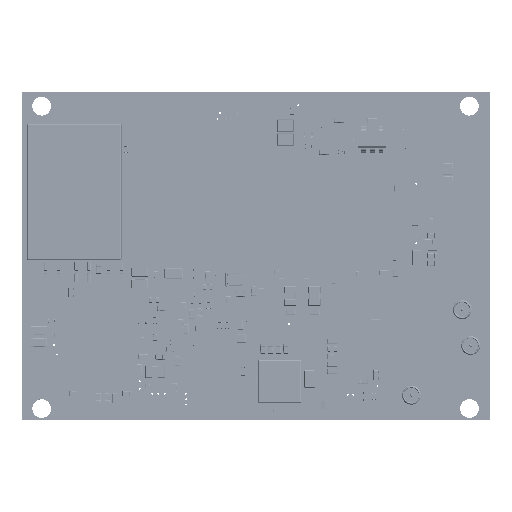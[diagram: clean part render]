
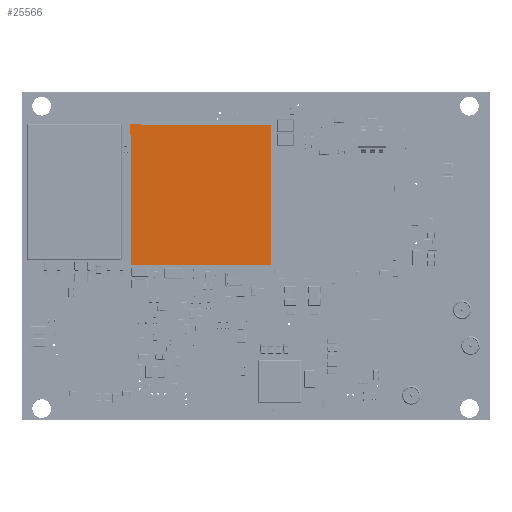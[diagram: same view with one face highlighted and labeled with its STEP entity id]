
A CAD part, top view. The second image highlights one B-rep face of the part: STEP entity #25566.
In plain terms, the highlighted planar face has unit normal (0, 0, 1).
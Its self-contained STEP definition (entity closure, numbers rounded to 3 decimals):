
#25566=ADVANCED_FACE('',(#47338),#47339,.T.);
#47338=FACE_OUTER_BOUND('',#75935,.T.);
#47339=PLANE('',#75936);
#75935=EDGE_LOOP('',(#125123,#125124,#125125,#125126,#125127,#125128,#125129,#125130));
#75936=AXIS2_PLACEMENT_3D('',#125131,#125132,#125133);
#125123=ORIENTED_EDGE('',*,*,#144327,.F.);
#125124=ORIENTED_EDGE('',*,*,#144328,.F.);
#125125=ORIENTED_EDGE('',*,*,#144329,.F.);
#125126=ORIENTED_EDGE('',*,*,#144330,.F.);
#125127=ORIENTED_EDGE('',*,*,#144331,.F.);
#125128=ORIENTED_EDGE('',*,*,#144332,.F.);
#125129=ORIENTED_EDGE('',*,*,#144333,.F.);
#125130=ORIENTED_EDGE('',*,*,#144334,.F.);
#125131=CARTESIAN_POINT('',(-0.099,0.099,2.11));
#125132=DIRECTION('',(0.0,0.0,1.0));
#125133=DIRECTION('',(1.0,0.0,0.0));
#144327=EDGE_CURVE('',#171682,#171683,#171684,.T.);
#144328=EDGE_CURVE('',#171685,#171682,#171686,.T.);
#144329=EDGE_CURVE('',#171687,#171685,#171688,.T.);
#144330=EDGE_CURVE('',#171689,#171687,#171690,.T.);
#144331=EDGE_CURVE('',#171691,#171689,#171692,.T.);
#144332=EDGE_CURVE('',#171693,#171691,#171694,.T.);
#144333=EDGE_CURVE('',#171695,#171693,#171696,.T.);
#144334=EDGE_CURVE('',#171683,#171695,#171697,.T.);
#171682=VERTEX_POINT('',#216921);
#171683=VERTEX_POINT('',#216922);
#171684=LINE('',#216923,#216924);
#171685=VERTEX_POINT('',#216925);
#171686=LINE('',#216926,#216927);
#171687=VERTEX_POINT('',#216928);
#171688=LINE('',#216929,#216930);
#171689=VERTEX_POINT('',#216931);
#171690=LINE('',#216932,#216933);
#171691=VERTEX_POINT('',#216934);
#171692=LINE('',#216935,#216936);
#171693=VERTEX_POINT('',#216937);
#171694=LINE('',#216938,#216939);
#171695=VERTEX_POINT('',#216940);
#171696=LINE('',#216941,#216942);
#171697=LINE('',#216943,#216944);
#216921=CARTESIAN_POINT('',(7.5,-7.5,2.11));
#216922=CARTESIAN_POINT('',(-7.5,-7.5,2.11));
#216923=CARTESIAN_POINT('',(0.0,-7.5,2.11));
#216924=VECTOR('',#234230,1.0);
#216925=CARTESIAN_POINT('',(7.5,7.5,2.11));
#216926=CARTESIAN_POINT('',(7.5,0.0,2.11));
#216927=VECTOR('',#234231,1.0);
#216928=CARTESIAN_POINT('',(-6.47,7.5,2.11));
#216929=CARTESIAN_POINT('',(0.515,7.5,2.11));
#216930=VECTOR('',#234232,1.0);
#216931=CARTESIAN_POINT('',(-6.35,7.62,2.11));
#216932=CARTESIAN_POINT('',(-6.41,7.56,2.11));
#216933=VECTOR('',#234233,1.0);
#216934=CARTESIAN_POINT('',(-7.62,7.62,2.11));
#216935=CARTESIAN_POINT('',(-6.985,7.62,2.11));
#216936=VECTOR('',#234234,1.0);
#216937=CARTESIAN_POINT('',(-7.62,6.35,2.11));
#216938=CARTESIAN_POINT('',(-7.62,6.985,2.11));
#216939=VECTOR('',#234235,1.0);
#216940=CARTESIAN_POINT('',(-7.5,6.47,2.11));
#216941=CARTESIAN_POINT('',(-7.56,6.41,2.11));
#216942=VECTOR('',#234236,1.0);
#216943=CARTESIAN_POINT('',(-7.5,-0.515,2.11));
#216944=VECTOR('',#234237,1.0);
#234230=DIRECTION('',(-1.0,0.0,0.0));
#234231=DIRECTION('',(0.0,-1.0,0.0));
#234232=DIRECTION('',(1.0,0.0,0.0));
#234233=DIRECTION('',(-0.707,-0.707,0.0));
#234234=DIRECTION('',(1.0,0.0,0.0));
#234235=DIRECTION('',(0.0,1.0,0.0));
#234236=DIRECTION('',(-0.707,-0.707,0.0));
#234237=DIRECTION('',(0.0,1.0,0.0));
